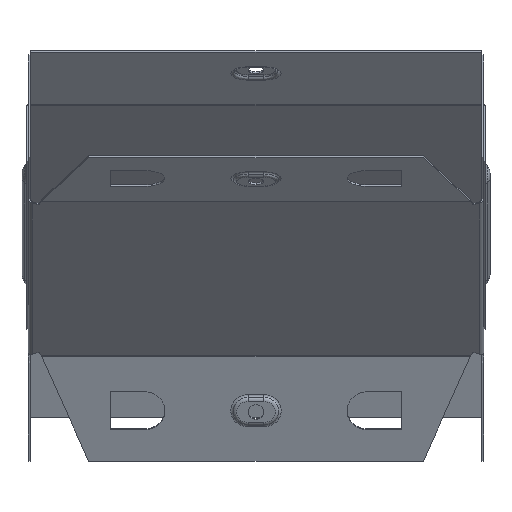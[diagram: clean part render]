
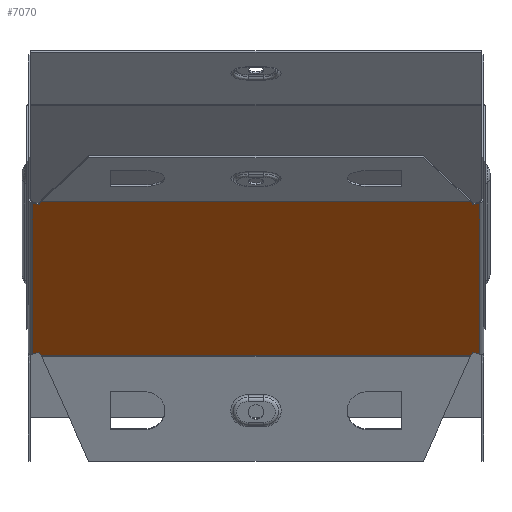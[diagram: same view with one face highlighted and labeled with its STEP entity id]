
A CAD part, top view. The second image highlights one B-rep face of the part: STEP entity #7070.
In plain terms, the highlighted planar face has unit normal (0, -0.707, 0.707).
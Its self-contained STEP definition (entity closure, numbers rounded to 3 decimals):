
#44 = EDGE_CURVE ( 'NONE', #1387, #9324, #10157, .T. ) ;
#57 = LINE ( 'NONE', #7725, #5425 ) ;
#100 = EDGE_CURVE ( 'NONE', #9324, #5250, #10444, .T. ) ;
#430 = LINE ( 'NONE', #8409, #3037 ) ;
#609 = ORIENTED_EDGE ( 'NONE', *, *, #6298, .T. ) ;
#740 = CARTESIAN_POINT ( 'NONE',  ( -98.2, 2.873, -69.245 ) ) ;
#943 = DIRECTION ( 'NONE',  ( -0.924, 0.271, 0.271 ) ) ;
#1087 = EDGE_CURVE ( 'NONE', #6080, #6790, #6928, .T. ) ;
#1235 = EDGE_CURVE ( 'NONE', #1387, #8775, #57, .T. ) ;
#1315 = EDGE_CURVE ( 'NONE', #9756, #4072, #10703, .T. ) ;
#1387 = VERTEX_POINT ( 'NONE', #6998 ) ;
#1458 = LINE ( 'NONE', #4525, #9492 ) ;
#1587 = VECTOR ( 'NONE', #5992, 1000. ) ;
#1611 = CARTESIAN_POINT ( 'NONE',  ( -95.217, 68.371, -3.747 ) ) ;
#1700 = ORIENTED_EDGE ( 'NONE', *, *, #8516, .F. ) ;
#1747 = ORIENTED_EDGE ( 'NONE', *, *, #8454, .T. ) ;
#1833 = ORIENTED_EDGE ( 'NONE', *, *, #44, .T. ) ;
#1957 = VECTOR ( 'NONE', #943, 1000. ) ;
#2013 = DIRECTION ( 'NONE',  ( 0., -0.707, -0.707 ) ) ;
#2063 = CARTESIAN_POINT ( 'NONE',  ( -95.217, 3.747, -68.371 ) ) ;
#2100 = VECTOR ( 'NONE', #2013, 1000. ) ;
#2112 = VECTOR ( 'NONE', #8634, 1000. ) ;
#2143 = CARTESIAN_POINT ( 'NONE',  ( 98.2, 70., -2.118 ) ) ;
#2184 = CARTESIAN_POINT ( 'NONE',  ( 95.217, 68.371, -3.747 ) ) ;
#2196 = LINE ( 'NONE', #2143, #8674 ) ;
#2788 = DIRECTION ( 'NONE',  ( -0.383, -0.653, -0.653 ) ) ;
#2881 = DIRECTION ( 'NONE',  ( 0.383, -0.653, -0.653 ) ) ;
#3037 = VECTOR ( 'NONE', #3127, 1000. ) ;
#3127 = DIRECTION ( 'NONE',  ( 0.924, 0.271, 0.271 ) ) ;
#3189 = DIRECTION ( 'NONE',  ( -0.924, -0.271, -0.271 ) ) ;
#3657 = CARTESIAN_POINT ( 'NONE',  ( 98.2, 2.873, -69.245 ) ) ;
#3767 = VECTOR ( 'NONE', #6615, 1000. ) ;
#4072 = VERTEX_POINT ( 'NONE', #5557 ) ;
#4234 = ORIENTED_EDGE ( 'NONE', *, *, #100, .T. ) ;
#4250 = VERTEX_POINT ( 'NONE', #740 ) ;
#4373 = LINE ( 'NONE', #2063, #8814 ) ;
#4451 = ORIENTED_EDGE ( 'NONE', *, *, #7454, .T. ) ;
#4486 = DIRECTION ( 'NONE',  ( -0.383, 0.653, 0.653 ) ) ;
#4525 = CARTESIAN_POINT ( 'NONE',  ( 73.5, 105.445, 33.327 ) ) ;
#4790 = EDGE_CURVE ( 'NONE', #4072, #8960, #5151, .T. ) ;
#4886 = CARTESIAN_POINT ( 'NONE',  ( -94.345, 2.258, -69.859 ) ) ;
#4909 = CARTESIAN_POINT ( 'NONE',  ( 73.5, -33.327, -105.445 ) ) ;
#5060 = DIRECTION ( 'NONE',  ( 0., 0.707, -0.707 ) ) ;
#5151 = LINE ( 'NONE', #5546, #10568 ) ;
#5250 = VERTEX_POINT ( 'NONE', #3657 ) ;
#5403 = LINE ( 'NONE', #6390, #2100 ) ;
#5425 = VECTOR ( 'NONE', #10383, 1000. ) ;
#5458 = VERTEX_POINT ( 'NONE', #5680 ) ;
#5546 = CARTESIAN_POINT ( 'NONE',  ( -95.217, 68.371, -3.747 ) ) ;
#5557 = CARTESIAN_POINT ( 'NONE',  ( -94.345, 69.859, -2.258 ) ) ;
#5680 = CARTESIAN_POINT ( 'NONE',  ( -95.217, 3.747, -68.371 ) ) ;
#5702 = AXIS2_PLACEMENT_3D ( 'NONE', #10375, #5060, #6029 ) ;
#5959 = EDGE_CURVE ( 'NONE', #7597, #4250, #5403, .T. ) ;
#5992 = DIRECTION ( 'NONE',  ( 0.924, -0.271, -0.271 ) ) ;
#6029 = DIRECTION ( 'NONE',  ( 0., 0.707, 0.707 ) ) ;
#6080 = VERTEX_POINT ( 'NONE', #7543 ) ;
#6298 = EDGE_CURVE ( 'NONE', #8960, #7597, #11104, .T. ) ;
#6390 = CARTESIAN_POINT ( 'NONE',  ( -98.2, 70., -2.118 ) ) ;
#6615 = DIRECTION ( 'NONE',  ( 0.383, 0.653, 0.653 ) ) ;
#6790 = VERTEX_POINT ( 'NONE', #2184 ) ;
#6928 = LINE ( 'NONE', #10112, #9024 ) ;
#6996 = ORIENTED_EDGE ( 'NONE', *, *, #1235, .F. ) ;
#6998 = CARTESIAN_POINT ( 'NONE',  ( 94.345, 2.258, -69.859 ) ) ;
#7070 = ADVANCED_FACE ( 'NONE', ( #9266 ), #11242, .F. ) ;
#7454 = EDGE_CURVE ( 'NONE', #4250, #5458, #430, .T. ) ;
#7543 = CARTESIAN_POINT ( 'NONE',  ( 98.2, 69.245, -2.873 ) ) ;
#7597 = VERTEX_POINT ( 'NONE', #9431 ) ;
#7725 = CARTESIAN_POINT ( 'NONE',  ( 98.2, 2.258, -69.859 ) ) ;
#7785 = ORIENTED_EDGE ( 'NONE', *, *, #5959, .T. ) ;
#7975 = CARTESIAN_POINT ( 'NONE',  ( -100.299, 69.859, -2.258 ) ) ;
#8409 = CARTESIAN_POINT ( 'NONE',  ( -100.299, 2.258, -69.859 ) ) ;
#8454 = EDGE_CURVE ( 'NONE', #5458, #8775, #4373, .T. ) ;
#8516 = EDGE_CURVE ( 'NONE', #6080, #5250, #2196, .T. ) ;
#8622 = CARTESIAN_POINT ( 'NONE',  ( 100.299, 2.258, -69.859 ) ) ;
#8634 = DIRECTION ( 'NONE',  ( -1., 0., 0. ) ) ;
#8674 = VECTOR ( 'NONE', #10209, 1000. ) ;
#8775 = VERTEX_POINT ( 'NONE', #4886 ) ;
#8814 = VECTOR ( 'NONE', #2881, 1000. ) ;
#8960 = VERTEX_POINT ( 'NONE', #1611 ) ;
#9024 = VECTOR ( 'NONE', #3189, 1000. ) ;
#9025 = EDGE_LOOP ( 'NONE', ( #1833, #4234, #1700, #10023, #9695, #10185, #10492, #609, #7785, #4451, #1747, #6996 ) ) ;
#9266 = FACE_OUTER_BOUND ( 'NONE', #9025, .T. ) ;
#9324 = VERTEX_POINT ( 'NONE', #10102 ) ;
#9431 = CARTESIAN_POINT ( 'NONE',  ( -98.2, 69.245, -2.873 ) ) ;
#9492 = VECTOR ( 'NONE', #4486, 1000. ) ;
#9649 = CARTESIAN_POINT ( 'NONE',  ( 98.2, 69.859, -2.258 ) ) ;
#9679 = EDGE_CURVE ( 'NONE', #6790, #9756, #1458, .T. ) ;
#9695 = ORIENTED_EDGE ( 'NONE', *, *, #9679, .T. ) ;
#9756 = VERTEX_POINT ( 'NONE', #10772 ) ;
#10023 = ORIENTED_EDGE ( 'NONE', *, *, #1087, .T. ) ;
#10102 = CARTESIAN_POINT ( 'NONE',  ( 95.217, 3.747, -68.371 ) ) ;
#10112 = CARTESIAN_POINT ( 'NONE',  ( 100.299, 69.859, -2.258 ) ) ;
#10157 = LINE ( 'NONE', #4909, #3767 ) ;
#10185 = ORIENTED_EDGE ( 'NONE', *, *, #1315, .T. ) ;
#10209 = DIRECTION ( 'NONE',  ( 0., -0.707, -0.707 ) ) ;
#10375 = CARTESIAN_POINT ( 'NONE',  ( 98.2, 70., -2.118 ) ) ;
#10383 = DIRECTION ( 'NONE',  ( -1., 0., 0. ) ) ;
#10444 = LINE ( 'NONE', #8622, #1587 ) ;
#10492 = ORIENTED_EDGE ( 'NONE', *, *, #4790, .T. ) ;
#10568 = VECTOR ( 'NONE', #2788, 1000. ) ;
#10703 = LINE ( 'NONE', #9649, #2112 ) ;
#10772 = CARTESIAN_POINT ( 'NONE',  ( 94.345, 69.859, -2.258 ) ) ;
#11104 = LINE ( 'NONE', #7975, #1957 ) ;
#11242 = PLANE ( 'NONE',  #5702 ) ;
